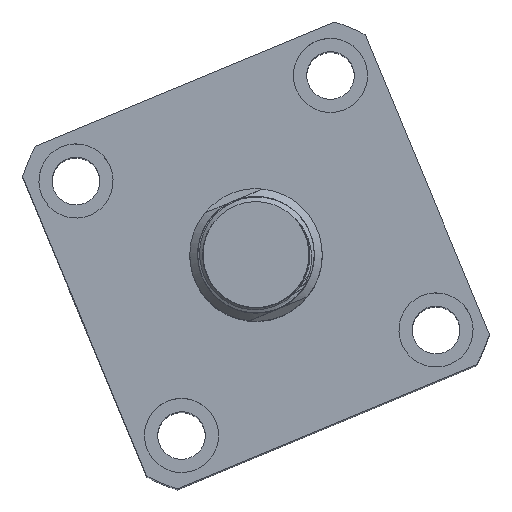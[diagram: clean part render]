
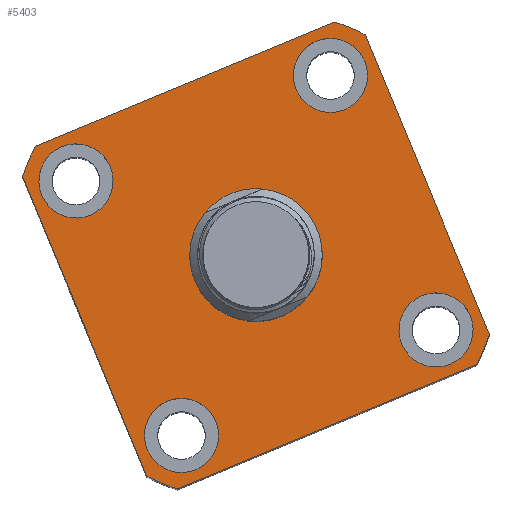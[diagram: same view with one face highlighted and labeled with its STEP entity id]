
A CAD part, top view. The second image highlights one B-rep face of the part: STEP entity #5403.
In plain terms, the highlighted planar face has unit normal (0, 0, 1).
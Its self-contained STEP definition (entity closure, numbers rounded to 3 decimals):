
#482=LINE('',#16623,#1329);
#488=LINE('',#16853,#1335);
#492=LINE('',#16862,#1339);
#496=LINE('',#16871,#1343);
#1329=VECTOR('',#12563,1.);
#1335=VECTOR('',#12695,1.);
#1339=VECTOR('',#12701,1.);
#1343=VECTOR('',#12707,1.);
#4458=PLANE('',#12124);
#5403=ADVANCED_FACE('',(#6022,#6023,#6024,#6025,#6026,#6027),#4458,.F.);
#5855=CIRCLE('',#12050,7.);
#5857=CIRCLE('',#12053,7.);
#5859=CIRCLE('',#12056,7.);
#5861=CIRCLE('',#12059,7.);
#5871=CIRCLE('',#12074,12.5);
#5900=CIRCLE('',#12120,46.5);
#5901=CIRCLE('',#12121,46.5);
#5902=CIRCLE('',#12122,46.5);
#5903=CIRCLE('',#12123,46.5);
#6022=FACE_BOUND('',#6242,.T.);
#6023=FACE_BOUND('',#6243,.T.);
#6024=FACE_BOUND('',#6244,.T.);
#6025=FACE_BOUND('',#6245,.T.);
#6026=FACE_BOUND('',#6246,.T.);
#6027=FACE_BOUND('',#6247,.T.);
#6242=EDGE_LOOP('',(#6920));
#6243=EDGE_LOOP('',(#6921));
#6244=EDGE_LOOP('',(#6922));
#6245=EDGE_LOOP('',(#6923));
#6246=EDGE_LOOP('',(#6924));
#6247=EDGE_LOOP('',(#6925,#6926,#6927,#6928,#6929,#6930,#6931,#6932));
#6920=ORIENTED_EDGE('',*,*,#10431,.F.);
#6921=ORIENTED_EDGE('',*,*,#10433,.F.);
#6922=ORIENTED_EDGE('',*,*,#10435,.F.);
#6923=ORIENTED_EDGE('',*,*,#10437,.F.);
#6924=ORIENTED_EDGE('',*,*,#10447,.F.);
#6925=ORIENTED_EDGE('',*,*,#10492,.F.);
#6926=ORIENTED_EDGE('',*,*,#10477,.F.);
#6927=ORIENTED_EDGE('',*,*,#10493,.F.);
#6928=ORIENTED_EDGE('',*,*,#10485,.F.);
#6929=ORIENTED_EDGE('',*,*,#10494,.F.);
#6930=ORIENTED_EDGE('',*,*,#10428,.F.);
#6931=ORIENTED_EDGE('',*,*,#10495,.F.);
#6932=ORIENTED_EDGE('',*,*,#10481,.F.);
#9452=VERTEX_POINT('',#16621);
#9454=VERTEX_POINT('',#16624);
#9456=VERTEX_POINT('',#16630);
#9458=VERTEX_POINT('',#16635);
#9460=VERTEX_POINT('',#16640);
#9462=VERTEX_POINT('',#16645);
#9472=VERTEX_POINT('',#16670);
#9500=VERTEX_POINT('',#16851);
#9502=VERTEX_POINT('',#16854);
#9504=VERTEX_POINT('',#16860);
#9506=VERTEX_POINT('',#16863);
#9508=VERTEX_POINT('',#16869);
#9510=VERTEX_POINT('',#16872);
#10428=EDGE_CURVE('',#9452,#9454,#482,.T.);
#10431=EDGE_CURVE('',#9456,#9456,#5855,.T.);
#10433=EDGE_CURVE('',#9458,#9458,#5857,.T.);
#10435=EDGE_CURVE('',#9460,#9460,#5859,.T.);
#10437=EDGE_CURVE('',#9462,#9462,#5861,.T.);
#10447=EDGE_CURVE('',#9472,#9472,#5871,.T.);
#10477=EDGE_CURVE('',#9500,#9502,#488,.T.);
#10481=EDGE_CURVE('',#9504,#9506,#492,.T.);
#10485=EDGE_CURVE('',#9508,#9510,#496,.T.);
#10492=EDGE_CURVE('',#9502,#9504,#5900,.T.);
#10493=EDGE_CURVE('',#9510,#9500,#5901,.T.);
#10494=EDGE_CURVE('',#9454,#9508,#5902,.T.);
#10495=EDGE_CURVE('',#9506,#9452,#5903,.T.);
#12050=AXIS2_PLACEMENT_3D('',#16629,#12568,#12569);
#12053=AXIS2_PLACEMENT_3D('',#16634,#12574,#12575);
#12056=AXIS2_PLACEMENT_3D('',#16639,#12580,#12581);
#12059=AXIS2_PLACEMENT_3D('',#16644,#12586,#12587);
#12074=AXIS2_PLACEMENT_3D('',#16669,#12616,#12617);
#12120=AXIS2_PLACEMENT_3D('',#16882,#12722,#12723);
#12121=AXIS2_PLACEMENT_3D('',#16883,#12724,#12725);
#12122=AXIS2_PLACEMENT_3D('',#16884,#12726,#12727);
#12123=AXIS2_PLACEMENT_3D('',#16885,#12728,#12729);
#12124=AXIS2_PLACEMENT_3D('',#16886,#12730,#12731);
#12563=DIRECTION('',(0.383,-0.924,0.));
#12568=DIRECTION('',(0.,0.,1.));
#12569=DIRECTION('',(0.924,0.383,0.));
#12574=DIRECTION('',(0.,0.,1.));
#12575=DIRECTION('',(0.924,0.383,0.));
#12580=DIRECTION('',(0.,0.,1.));
#12581=DIRECTION('',(0.924,0.383,0.));
#12586=DIRECTION('',(0.,0.,1.));
#12587=DIRECTION('',(0.924,0.383,0.));
#12616=DIRECTION('',(0.,0.,1.));
#12617=DIRECTION('',(0.924,0.383,0.));
#12695=DIRECTION('',(-0.383,0.924,0.));
#12701=DIRECTION('',(0.924,0.383,0.));
#12707=DIRECTION('',(-0.924,-0.383,0.));
#12722=DIRECTION('',(0.,0.,-1.));
#12723=DIRECTION('',(-0.924,-0.383,0.));
#12724=DIRECTION('',(0.,0.,-1.));
#12725=DIRECTION('',(-0.924,-0.383,0.));
#12726=DIRECTION('',(0.,0.,-1.));
#12727=DIRECTION('',(-0.924,-0.383,0.));
#12728=DIRECTION('',(0.,0.,-1.));
#12729=DIRECTION('',(-0.924,-0.383,0.));
#12730=DIRECTION('',(0.,0.,-1.));
#12731=DIRECTION('',(0.924,0.383,0.));
#16621=CARTESIAN_POINT('',(-98.478,61.275,156.763));
#16623=CARTESIAN_POINT('',(-100.158,65.326,156.763));
#16624=CARTESIAN_POINT('',(-75.025,4.716,156.763));
#16629=CARTESIAN_POINT('',(-153.058,33.647,156.763));
#16630=CARTESIAN_POINT('',(-146.592,36.328,156.763));
#16634=CARTESIAN_POINT('',(-133.14,-14.387,156.763));
#16635=CARTESIAN_POINT('',(-126.674,-11.706,156.763));
#16639=CARTESIAN_POINT('',(-85.106,5.532,156.763));
#16640=CARTESIAN_POINT('',(-78.64,8.213,156.763));
#16644=CARTESIAN_POINT('',(-105.024,53.565,156.763));
#16645=CARTESIAN_POINT('',(-98.558,56.247,156.763));
#16669=CARTESIAN_POINT('',(-119.082,19.589,156.763));
#16670=CARTESIAN_POINT('',(-107.535,24.377,156.763));
#16851=CARTESIAN_POINT('',(-139.686,-22.097,156.763));
#16853=CARTESIAN_POINT('',(-164.819,38.513,156.763));
#16854=CARTESIAN_POINT('',(-163.139,34.462,156.763));
#16860=CARTESIAN_POINT('',(-160.768,40.193,156.763));
#16862=CARTESIAN_POINT('',(-100.158,65.326,156.763));
#16863=CARTESIAN_POINT('',(-104.209,63.647,156.763));
#16869=CARTESIAN_POINT('',(-77.396,-1.014,156.763));
#16871=CARTESIAN_POINT('',(-73.345,0.665,156.763));
#16872=CARTESIAN_POINT('',(-133.955,-24.468,156.763));
#16882=CARTESIAN_POINT('',(-119.082,19.589,156.763));
#16883=CARTESIAN_POINT('',(-119.082,19.589,156.763));
#16884=CARTESIAN_POINT('',(-119.082,19.589,156.763));
#16885=CARTESIAN_POINT('',(-119.082,19.589,156.763));
#16886=CARTESIAN_POINT('',(-119.082,19.589,156.763));
